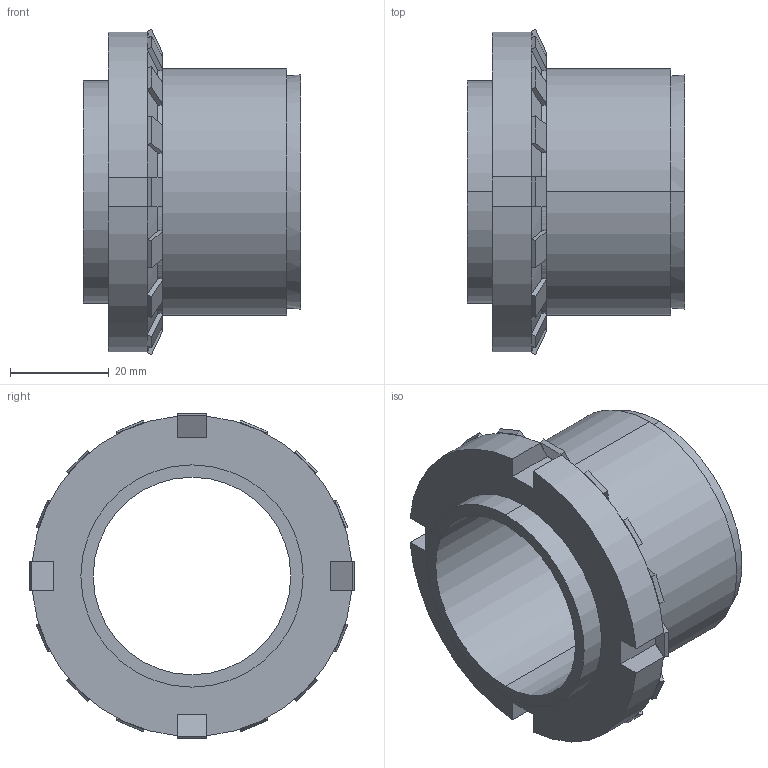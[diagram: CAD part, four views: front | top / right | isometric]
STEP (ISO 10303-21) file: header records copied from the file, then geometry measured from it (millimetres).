
FILE_DESCRIPTION (( 'STEP AP203' ), '1' );
FILE_NAME ('SI-40.STEP', '2009-09-29T17:23:53', ( 'USER' ), ( 'HOME' ), 'SwSTEP 2.0', 'SolidWorks 2007', '' );
FILE_SCHEMA (( 'CONFIG_CONTROL_DESIGN' ));
Length unit declared in the file: millimetre
Products named in the file (1): SI-40
Bounding box: 44 x 65.85 x 65.85 mm (x, y, z)
Volume: 54417 mm3; surface area: 61770.6 mm2
Topology: 19 solids, 19 shells, 232 faces, 574 edges, 380 vertices
Faces by surface type: plane 130, cylinder 94, cone 8
Entity records: 7043 total; most frequent: CARTESIAN_POINT 1235, DIRECTION 1220, ORIENTED_EDGE 1148, EDGE_CURVE 574, AXIS2_PLACEMENT_3D 429, VERTEX_POINT 380, VECTOR 362, LINE 362
